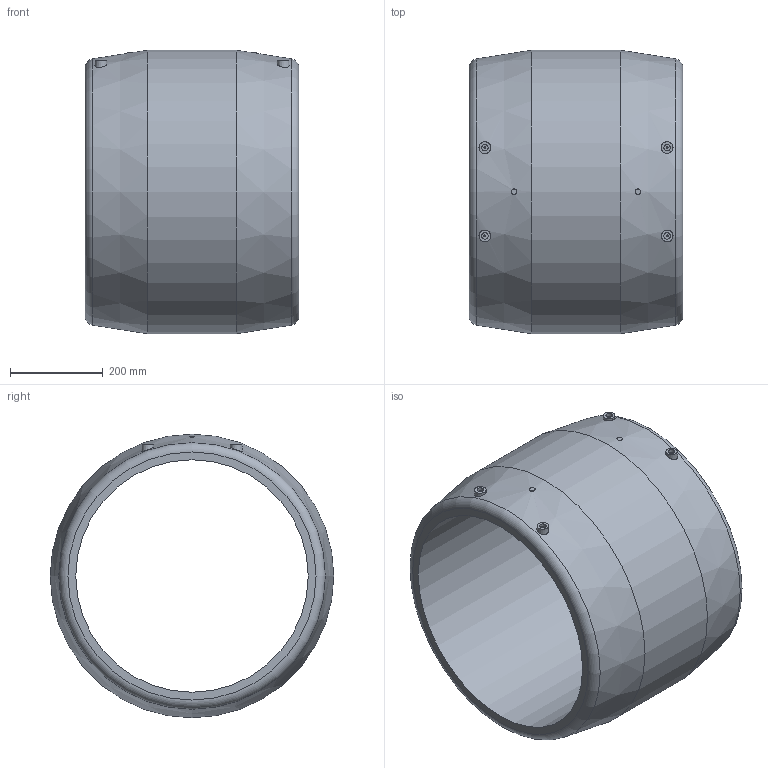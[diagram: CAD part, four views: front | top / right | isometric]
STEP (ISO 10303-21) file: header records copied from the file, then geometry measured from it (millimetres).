
FILE_DESCRIPTION(/* description */ ('Unknown'),/* implementation_level */ '2;1');
FILE_NAME(/* name */ 'MP500C',/* time_stamp */ '2021-04-29T17:09:41+02:00',/* author */ ('Unknown'),/* organization */ ('Unknown'),/* preprocessor_version */ 'ST-DEVELOPER v16.7',/* originating_system */ 'Solid Edge',/* authorisation */ 'Unknown');
FILE_SCHEMA (('AUTOMOTIVE_DESIGN {1 0 10303 214 3 1 1}'));
Length unit declared in the file: millimetre
Products named in the file (1): MP500C
Bounding box: 460 x 610 x 610 mm (x, y, z)
Volume: 38605605.8 mm3; surface area: 1690733.6 mm2
Topology: 1 solids, 1 shells, 36 faces, 66 edges, 44 vertices
Faces by surface type: plane 16, cylinder 12, cone 6, torus 2
Full cylindrical faces by diameter (mm): 4 x4, 14 x4, 500 x1, 610 x1
Entity records: 876 total; most frequent: CARTESIAN_POINT 229, DIRECTION 134, ORIENTED_EDGE 76, FACE_BOUND 74, EDGE_LOOP 70, AXIS2_PLACEMENT_3D 67, VERTEX_POINT 40, EDGE_CURVE 38
